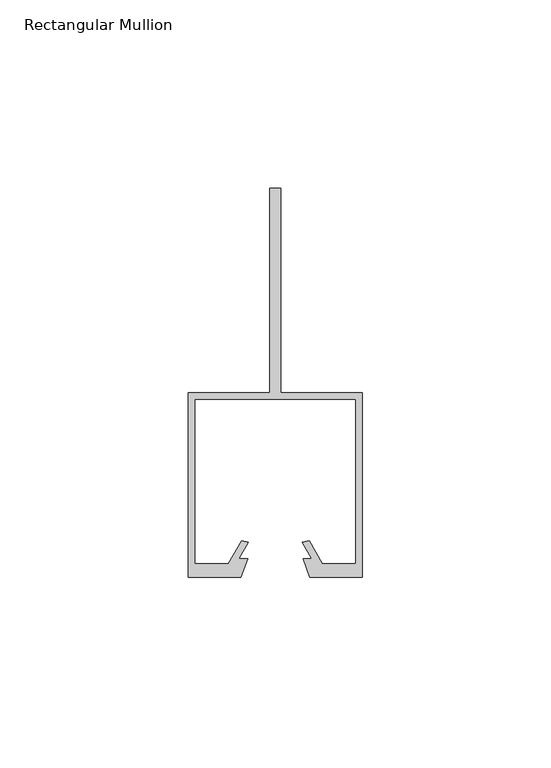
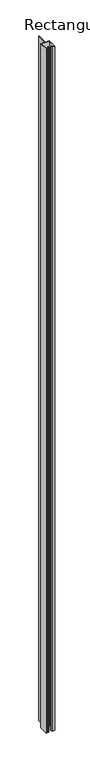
"""IFC4 building model written with IfcOpenShell, lengths in millimetres: member geometry, Rectangular Mullion : Danpal_VRS_Interal-Ver-Mullion."""

from ifc_helpers import new_model, si_unit, frame, origin, place, context, project, spatial, polyline, outline, extrude, source, transform, mapped, element, save


def rectangular_mullion_fa24a072(model_context):
    return source(origin(), model_context, "Body", "SweptSolid", [
        extrude(outline(polyline([(0.9301952, 119.1425109), (0.9301952, 64.9434675), (22.5545719, 64.9434675), (22.5545719, 16.0190012), (8.699018, 16.0190012), (6.863241, 20.8275261), (9.2059054, 20.8239405), (6.6653999, 25.2754257), (8.4580743, 25.6616323), (11.9637329, 19.5190012), (20.8545719, 19.5190012), (20.8545719, 63.2434675), (-21.8545719, 63.2434675), (-21.8545719, 19.5190012), (-12.9637329, 19.5190012), (-9.4580743, 25.6616323), (-7.6653999, 25.2754257), (-10.2059054, 20.8239405), (-7.863241, 20.8275261), (-9.699018, 16.0190012), (-23.5545719, 16.0190012), (-23.5545719, 64.9434675), (-1.9301952, 64.9434675), (-1.9301952, 119.1425109), (0.9301952, 119.1425109)])), frame((0.0, 0.0, -3850.1320555), z_axis=(0.0, 0.0, 1.0), x_axis=(1.0, 0.0, 0.0)), (0.0, 0.0, 1.0), 3850.1320555),
    ])


if __name__ == "__main__":
    model = new_model("IFC4")
    model_context = context("Model", 3, world=origin())
    ifc_project = project(units=[si_unit("LENGTHUNIT", "METRE", prefix="MILLI")], contexts=[model_context])
    site = spatial("IfcSite", under=ifc_project)
    building = spatial("IfcBuilding", under=site)
    placement = place(None, origin())
    rectangular_mullion_shape = rectangular_mullion_fa24a072(model_context)
    element("IfcMember", 1, ObjectType="Rectangular Mullion : Danpal_VRS_Interal-Ver-Mullion", at=placement, inside=building, context=model_context, shape_type="MappedRepresentation", body=[
        mapped(rectangular_mullion_shape, transform((0.0, 0.0, 0.0), x_axis=(1.0, 0.0, 0.0), y_axis=(0.0, 1.0, 0.0), z_axis=(0.0, 0.0, 1.0))),
    ])
    save(model, "model.ifc")
